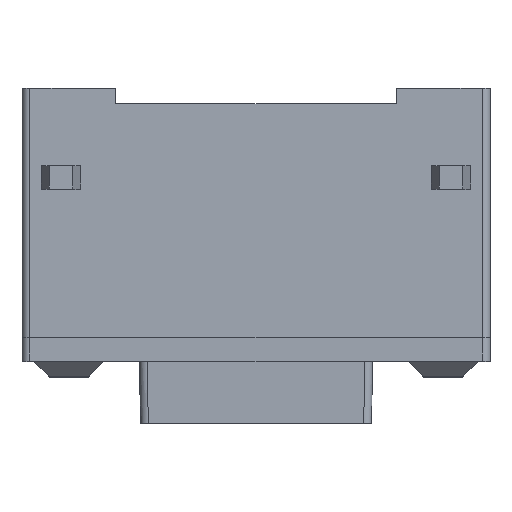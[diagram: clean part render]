
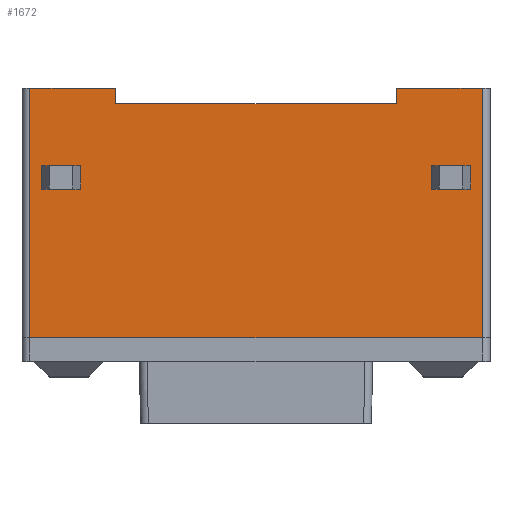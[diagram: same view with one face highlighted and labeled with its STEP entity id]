
A CAD part, top view. The second image highlights one B-rep face of the part: STEP entity #1672.
In plain terms, the highlighted planar face has unit normal (0, 0, 1).
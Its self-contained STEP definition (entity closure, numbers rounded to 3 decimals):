
#75=DIRECTION('',(1.,0.,0.));
#76=VECTOR('',#75,5.8);
#77=CARTESIAN_POINT('',(-2.9,0.,1.8));
#78=LINE('',#77,#76);
#166=DIRECTION('',(-1.,0.,0.));
#167=VECTOR('',#166,0.5);
#168=CARTESIAN_POINT('',(-2.25,2.2,1.8));
#169=LINE('',#168,#167);
#173=DIRECTION('',(0.,-1.,0.));
#174=VECTOR('',#173,0.3);
#175=CARTESIAN_POINT('',(-2.75,2.2,1.8));
#176=LINE('',#175,#174);
#180=DIRECTION('',(1.,0.,0.));
#181=VECTOR('',#180,0.5);
#182=CARTESIAN_POINT('',(-2.75,1.9,1.8));
#183=LINE('',#182,#181);
#187=DIRECTION('',(0.,1.,0.));
#188=VECTOR('',#187,0.3);
#189=CARTESIAN_POINT('',(-2.25,1.9,1.8));
#190=LINE('',#189,#188);
#194=DIRECTION('',(-1.,0.,0.));
#195=VECTOR('',#194,0.5);
#196=CARTESIAN_POINT('',(2.75,2.2,1.8));
#197=LINE('',#196,#195);
#201=DIRECTION('',(0.,-1.,0.));
#202=VECTOR('',#201,0.3);
#203=CARTESIAN_POINT('',(2.25,2.2,1.8));
#204=LINE('',#203,#202);
#208=DIRECTION('',(1.,0.,0.));
#209=VECTOR('',#208,0.5);
#210=CARTESIAN_POINT('',(2.25,1.9,1.8));
#211=LINE('',#210,#209);
#215=DIRECTION('',(0.,1.,0.));
#216=VECTOR('',#215,0.3);
#217=CARTESIAN_POINT('',(2.75,1.9,1.8));
#218=LINE('',#217,#216);
#222=DIRECTION('',(1.,0.,0.));
#223=VECTOR('',#222,3.6);
#224=CARTESIAN_POINT('',(-1.8,3.,1.8));
#225=LINE('',#224,#223);
#229=DIRECTION('',(0.,-1.,0.));
#230=VECTOR('',#229,0.2);
#231=CARTESIAN_POINT('',(1.8,3.2,1.8));
#232=LINE('',#231,#230);
#236=DIRECTION('',(0.,-1.,0.));
#237=VECTOR('',#236,3.2);
#238=CARTESIAN_POINT('',(2.9,3.2,1.8));
#239=LINE('',#238,#237);
#243=DIRECTION('',(0.,-1.,0.));
#244=VECTOR('',#243,3.2);
#245=CARTESIAN_POINT('',(-2.9,3.2,1.8));
#246=LINE('',#245,#244);
#250=DIRECTION('',(0.,-1.,0.));
#251=VECTOR('',#250,0.2);
#252=CARTESIAN_POINT('',(-1.8,3.2,1.8));
#253=LINE('',#252,#251);
#558=DIRECTION('',(1.,0.,0.));
#559=VECTOR('',#558,1.1);
#560=CARTESIAN_POINT('',(-2.9,3.2,1.8));
#561=LINE('',#560,#559);
#632=DIRECTION('',(1.,0.,0.));
#633=VECTOR('',#632,1.1);
#634=CARTESIAN_POINT('',(1.8,3.2,1.8));
#635=LINE('',#634,#633);
#1355=CARTESIAN_POINT('',(-1.8,3.,1.8));
#1357=VERTEX_POINT('',#1355);
#1358=CARTESIAN_POINT('',(1.8,3.,1.8));
#1360=VERTEX_POINT('',#1358);
#1442=CARTESIAN_POINT('',(-2.25,2.2,1.8));
#1443=CARTESIAN_POINT('',(-2.75,2.2,1.8));
#1444=VERTEX_POINT('',#1442);
#1445=VERTEX_POINT('',#1443);
#1446=CARTESIAN_POINT('',(-2.75,1.9,1.8));
#1447=VERTEX_POINT('',#1446);
#1448=CARTESIAN_POINT('',(-2.25,1.9,1.8));
#1449=VERTEX_POINT('',#1448);
#1450=CARTESIAN_POINT('',(2.75,2.2,1.8));
#1451=CARTESIAN_POINT('',(2.25,2.2,1.8));
#1452=VERTEX_POINT('',#1450);
#1453=VERTEX_POINT('',#1451);
#1454=CARTESIAN_POINT('',(2.25,1.9,1.8));
#1455=VERTEX_POINT('',#1454);
#1456=CARTESIAN_POINT('',(2.75,1.9,1.8));
#1457=VERTEX_POINT('',#1456);
#1491=CARTESIAN_POINT('',(2.9,0.,1.8));
#1493=VERTEX_POINT('',#1491);
#1494=CARTESIAN_POINT('',(2.9,3.2,1.8));
#1495=VERTEX_POINT('',#1494);
#1498=CARTESIAN_POINT('',(-2.9,0.,1.8));
#1500=VERTEX_POINT('',#1498);
#1504=CARTESIAN_POINT('',(-2.9,3.2,1.8));
#1505=VERTEX_POINT('',#1504);
#1522=CARTESIAN_POINT('',(-1.8,3.2,1.8));
#1524=VERTEX_POINT('',#1522);
#1526=CARTESIAN_POINT('',(1.8,3.2,1.8));
#1528=VERTEX_POINT('',#1526);
#1631=CARTESIAN_POINT('',(-3.,0.,1.8));
#1632=DIRECTION('',(0.,0.,1.));
#1633=DIRECTION('',(1.,0.,0.));
#1634=AXIS2_PLACEMENT_3D('',#1631,#1632,#1633);
#1635=PLANE('',#1634);
#1637=ORIENTED_EDGE('',*,*,#1636,.T.);
#1639=ORIENTED_EDGE('',*,*,#1638,.F.);
#1641=ORIENTED_EDGE('',*,*,#1640,.T.);
#1642=ORIENTED_EDGE('',*,*,#1622,.T.);
#1643=ORIENTED_EDGE('',*,*,#1573,.F.);
#1645=ORIENTED_EDGE('',*,*,#1644,.F.);
#1647=ORIENTED_EDGE('',*,*,#1646,.T.);
#1649=ORIENTED_EDGE('',*,*,#1648,.T.);
#1650=EDGE_LOOP('',(#1637,#1639,#1641,#1642,#1643,#1645,#1647,#1649));
#1651=FACE_OUTER_BOUND('',#1650,.F.);
#1653=ORIENTED_EDGE('',*,*,#1652,.T.);
#1655=ORIENTED_EDGE('',*,*,#1654,.T.);
#1657=ORIENTED_EDGE('',*,*,#1656,.T.);
#1659=ORIENTED_EDGE('',*,*,#1658,.T.);
#1660=EDGE_LOOP('',(#1653,#1655,#1657,#1659));
#1661=FACE_BOUND('',#1660,.F.);
#1663=ORIENTED_EDGE('',*,*,#1662,.T.);
#1665=ORIENTED_EDGE('',*,*,#1664,.T.);
#1667=ORIENTED_EDGE('',*,*,#1666,.T.);
#1669=ORIENTED_EDGE('',*,*,#1668,.T.);
#1670=EDGE_LOOP('',(#1663,#1665,#1667,#1669));
#1671=FACE_BOUND('',#1670,.F.);
#1573=EDGE_CURVE('',#1500,#1493,#78,.T.);
#1622=EDGE_CURVE('',#1495,#1493,#239,.T.);
#1636=EDGE_CURVE('',#1357,#1360,#225,.T.);
#1638=EDGE_CURVE('',#1528,#1360,#232,.T.);
#1640=EDGE_CURVE('',#1528,#1495,#635,.T.);
#1644=EDGE_CURVE('',#1505,#1500,#246,.T.);
#1646=EDGE_CURVE('',#1505,#1524,#561,.T.);
#1648=EDGE_CURVE('',#1524,#1357,#253,.T.);
#1652=EDGE_CURVE('',#1452,#1453,#197,.T.);
#1654=EDGE_CURVE('',#1453,#1455,#204,.T.);
#1656=EDGE_CURVE('',#1455,#1457,#211,.T.);
#1658=EDGE_CURVE('',#1457,#1452,#218,.T.);
#1662=EDGE_CURVE('',#1444,#1445,#169,.T.);
#1664=EDGE_CURVE('',#1445,#1447,#176,.T.);
#1666=EDGE_CURVE('',#1447,#1449,#183,.T.);
#1668=EDGE_CURVE('',#1449,#1444,#190,.T.);
#1672=ADVANCED_FACE('',(#1651,#1661,#1671),#1635,.T.);
